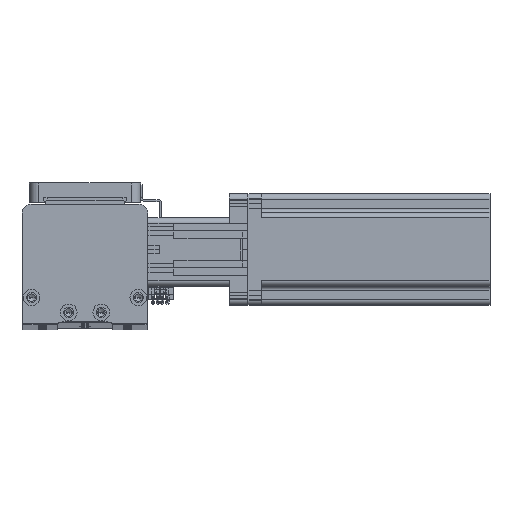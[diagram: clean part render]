
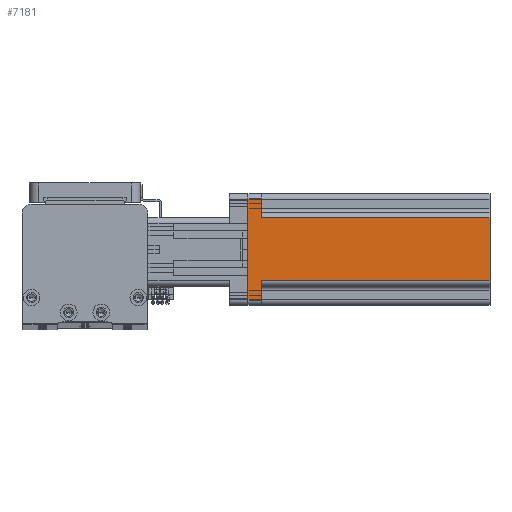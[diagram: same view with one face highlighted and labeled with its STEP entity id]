
A CAD part, top view. The second image highlights one B-rep face of the part: STEP entity #7181.
In plain terms, the highlighted planar face has unit normal (0, 0, 1) as drawn and (1, 0, 0) by its records, which use the part's own axes.
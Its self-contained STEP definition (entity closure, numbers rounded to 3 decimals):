
#796 = VERTEX_POINT ( 'NONE', #24635 ) ;
#1732 = ORIENTED_EDGE ( 'NONE', *, *, #34820, .T. ) ;
#1823 = LINE ( 'NONE', #19546, #44701 ) ;
#2858 = VERTEX_POINT ( 'NONE', #26666 ) ;
#3901 = ORIENTED_EDGE ( 'NONE', *, *, #17906, .T. ) ;
#4360 = VECTOR ( 'NONE', #50851, 1000. ) ;
#4738 = EDGE_CURVE ( 'NONE', #32699, #36667, #1823, .T. ) ;
#4786 = DIRECTION ( 'NONE',  ( 0., -1., 0. ) ) ;
#4842 = DIRECTION ( 'NONE',  ( 0., 1., 0. ) ) ;
#7181 = ADVANCED_FACE ( 'NONE', ( #21584 ), #49520, .F. ) ;
#7396 = ORIENTED_EDGE ( 'NONE', *, *, #38611, .T. ) ;
#7974 = VERTEX_POINT ( 'NONE', #8312 ) ;
#8168 = LINE ( 'NONE', #43494, #28363 ) ;
#8312 = CARTESIAN_POINT ( 'NONE',  ( 30., -27., 7.5 ) ) ;
#8433 = EDGE_CURVE ( 'NONE', #35391, #36667, #39014, .T. ) ;
#8851 = CARTESIAN_POINT ( 'NONE',  ( 30., -30., 7.5 ) ) ;
#9584 = EDGE_CURVE ( 'NONE', #32699, #20265, #51441, .T. ) ;
#13344 = CARTESIAN_POINT ( 'NONE',  ( 30., -30., 130.7 ) ) ;
#13892 = VECTOR ( 'NONE', #44505, 1000. ) ;
#13898 = LINE ( 'NONE', #31369, #34093 ) ;
#14518 = CARTESIAN_POINT ( 'NONE',  ( 30., -27., 130.7 ) ) ;
#15062 = LINE ( 'NONE', #14518, #4360 ) ;
#15470 = CARTESIAN_POINT ( 'NONE',  ( 30., -30., 130.7 ) ) ;
#16075 = ORIENTED_EDGE ( 'NONE', *, *, #9584, .F. ) ;
#16130 = LINE ( 'NONE', #8851, #26916 ) ;
#16285 = VECTOR ( 'NONE', #19525, 1000. ) ;
#17387 = DIRECTION ( 'NONE',  ( 0., 0., 1. ) ) ;
#17906 = EDGE_CURVE ( 'NONE', #35391, #796, #8168, .T. ) ;
#18420 = CARTESIAN_POINT ( 'NONE',  ( 30., 17., 130.7 ) ) ;
#19525 = DIRECTION ( 'NONE',  ( 0., 1., 0. ) ) ;
#19546 = CARTESIAN_POINT ( 'NONE',  ( 30., 17., 130.7 ) ) ;
#20265 = VERTEX_POINT ( 'NONE', #25264 ) ;
#21584 = FACE_OUTER_BOUND ( 'NONE', #52178, .T. ) ;
#23337 = DIRECTION ( 'NONE',  ( 0., 0., -1. ) ) ;
#23382 = ORIENTED_EDGE ( 'NONE', *, *, #44011, .T. ) ;
#24635 = CARTESIAN_POINT ( 'NONE',  ( 30., -17., 7.5 ) ) ;
#25264 = CARTESIAN_POINT ( 'NONE',  ( 30., 27., 7.5 ) ) ;
#25997 = EDGE_CURVE ( 'NONE', #7974, #52194, #15062, .T. ) ;
#26666 = CARTESIAN_POINT ( 'NONE',  ( 30., 27., 0. ) ) ;
#26916 = VECTOR ( 'NONE', #4786, 1000. ) ;
#28363 = VECTOR ( 'NONE', #23337, 1000. ) ;
#31250 = VECTOR ( 'NONE', #47404, 1000. ) ;
#31369 = CARTESIAN_POINT ( 'NONE',  ( 30., -30., 0. ) ) ;
#32142 = ORIENTED_EDGE ( 'NONE', *, *, #8433, .F. ) ;
#32283 = CARTESIAN_POINT ( 'NONE',  ( 30., 27., 130.7 ) ) ;
#32699 = VERTEX_POINT ( 'NONE', #48220 ) ;
#34093 = VECTOR ( 'NONE', #4842, 1000. ) ;
#34491 = ORIENTED_EDGE ( 'NONE', *, *, #25997, .T. ) ;
#34820 = EDGE_CURVE ( 'NONE', #52194, #2858, #13898, .T. ) ;
#35370 = LINE ( 'NONE', #32283, #13892 ) ;
#35391 = VERTEX_POINT ( 'NONE', #46442 ) ;
#35514 = AXIS2_PLACEMENT_3D ( 'NONE', #13344, #41555, #17387 ) ;
#36593 = ORIENTED_EDGE ( 'NONE', *, *, #4738, .T. ) ;
#36667 = VERTEX_POINT ( 'NONE', #18420 ) ;
#38611 = EDGE_CURVE ( 'NONE', #796, #7974, #16130, .T. ) ;
#39014 = LINE ( 'NONE', #15470, #16285 ) ;
#41555 = DIRECTION ( 'NONE',  ( -1., 0., 0. ) ) ;
#43364 = CARTESIAN_POINT ( 'NONE',  ( 30., 30., 7.5 ) ) ;
#43494 = CARTESIAN_POINT ( 'NONE',  ( 30., -17., 7.5 ) ) ;
#43934 = DIRECTION ( 'NONE',  ( 0., 0., 1. ) ) ;
#44011 = EDGE_CURVE ( 'NONE', #2858, #20265, #35370, .T. ) ;
#44505 = DIRECTION ( 'NONE',  ( 0., 0., 1. ) ) ;
#44701 = VECTOR ( 'NONE', #43934, 1000. ) ;
#45326 = CARTESIAN_POINT ( 'NONE',  ( 30., -27., 0. ) ) ;
#46442 = CARTESIAN_POINT ( 'NONE',  ( 30., -17., 130.7 ) ) ;
#47404 = DIRECTION ( 'NONE',  ( 0., 1., 0. ) ) ;
#48220 = CARTESIAN_POINT ( 'NONE',  ( 30., 17., 7.5 ) ) ;
#49520 = PLANE ( 'NONE',  #35514 ) ;
#50851 = DIRECTION ( 'NONE',  ( 0., 0., -1. ) ) ;
#51441 = LINE ( 'NONE', #43364, #31250 ) ;
#52178 = EDGE_LOOP ( 'NONE', ( #32142, #3901, #7396, #34491, #1732, #23382, #16075, #36593 ) ) ;
#52194 = VERTEX_POINT ( 'NONE', #45326 ) ;
